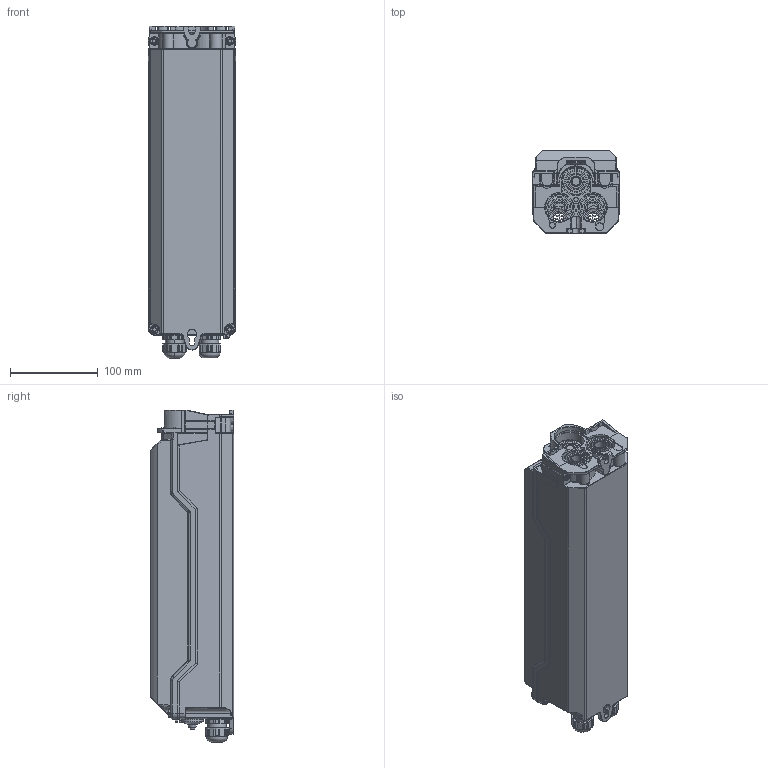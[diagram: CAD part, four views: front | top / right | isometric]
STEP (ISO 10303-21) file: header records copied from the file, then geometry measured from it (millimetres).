
FILE_DESCRIPTION (( 'STEP AP203' ), '1' );
FILE_NAME ('3D - HSW2911 2x _ 2x Außenkontur.STEP', '2019-07-23T05:48:02', ( '' ), ( '' ), 'SwSTEP 2.0', 'SolidWorks 2013', '' );
FILE_SCHEMA (( 'CONFIG_CONTROL_DESIGN' ));
Products named in the file (1): 3D - HSW2911 2x _ 2x Außenkontur
Bounding box: 100 x 95 x 379.28 mm (x, y, z)
Surface area: 170363.2 mm2 (no closed solid volume)
Topology: 0 solids, 40 shells, 1422 faces, 4910 edges, 3417 vertices
Faces by surface type: plane 599, cylinder 416, bspline 217, cone 106, torus 58, sphere 26
Entity records: 63102 total; most frequent: CARTESIAN_POINT 24539, ORIENTED_EDGE 7901, DIRECTION 7106, EDGE_CURVE 4888, VERTEX_POINT 3416, LINE 2564, VECTOR 2564, AXIS2_PLACEMENT_3D 2271
